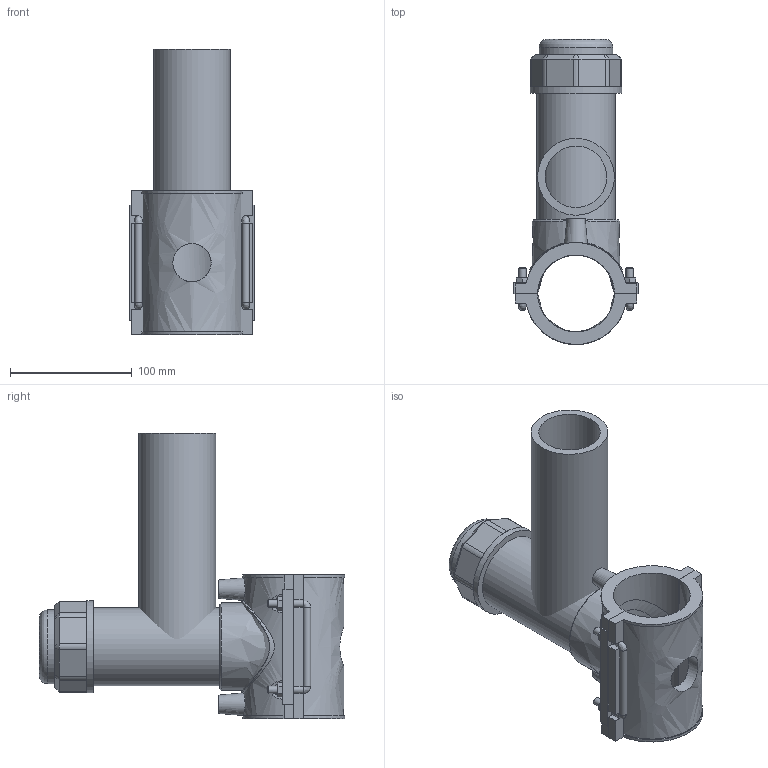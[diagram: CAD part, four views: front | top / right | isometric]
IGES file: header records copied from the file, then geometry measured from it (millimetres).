
Global section: file name: 4963P4063063; native system: Autodesk Inventor 2019; preprocessor: unknown; author: KIM; date: 20220317.112555; units: millimetre
Bounding box: 102 x 250.27 x 234 mm (x, y, z)
Volume: 849176.1 mm3; surface area: 219479.4 mm2
Topology: 3 solids, 3 shells, 181 faces, 467 edges, 300 vertices
Faces by surface type: bspline 181
